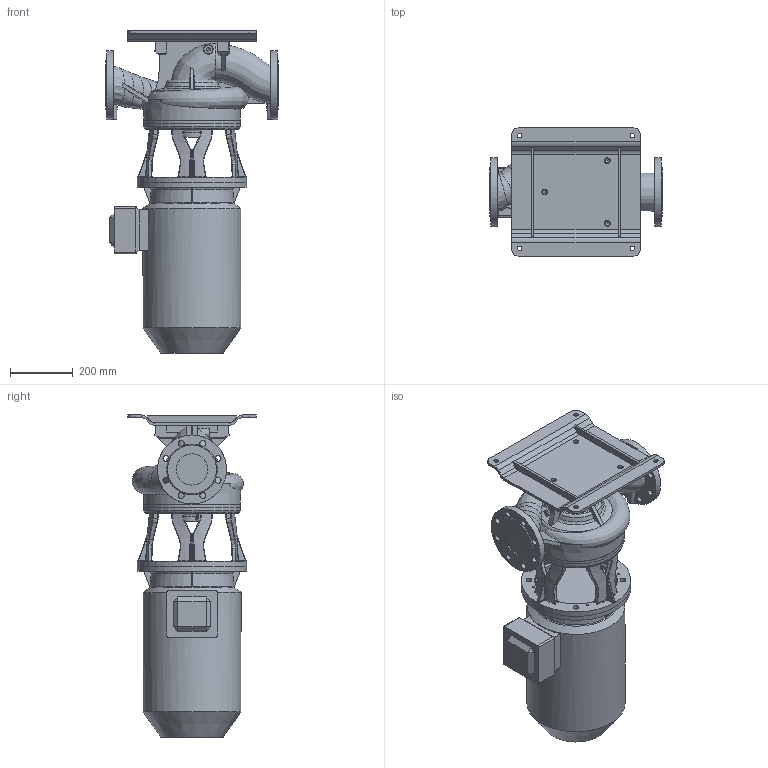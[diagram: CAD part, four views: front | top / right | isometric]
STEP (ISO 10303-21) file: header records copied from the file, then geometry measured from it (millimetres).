
FILE_DESCRIPTION (( 'STEP AP203' ), '1' );
FILE_NAME ('KI100-220_2_18,5kW.STEP', '2024-07-30T07:52:49', ( '' ), ( '' ), 'SwSTEP 2.0', 'SolidWorks 2023', '' );
FILE_SCHEMA (( 'CONFIG_CONTROL_DESIGN' ));
Length unit declared in the file: millimetre
Products named in the file (11): 230572; 440186_solid; 230566; KI100-220_2_18,5kW; 230083; 230574; 230085; 220531; 220532; 230084; 230565
Assembly tree (11 placements, depth 3):
  KI100-220_2_18,5kW
    230566
      230565
    230574
      230572
    220532
      220531
    230085
      230083
      230084  x2
    440186_solid
Bounding box: 550 x 408.67 x 1027.21 mm (x, y, z)
Volume: 63061095.3 mm3; surface area: 2415431.3 mm2
Topology: 7 solids, 7 shells, 1002 faces, 2627 edges, 1625 vertices
Faces by surface type: bspline 381, plane 303, cylinder 187, cone 78, torus 51, sphere 2
Full cylindrical faces by diameter (mm): 6 x2, 6.8 x8, 10 x4, 10.2 x8, 11.445 x1, 11.8 x3, 14 x19, 14.5 x4, 18 x3, 19 x24, 100 x2, 220 x2, 225 x1, 243 x1, 250 x1, 255 x2, 308 x2, 313 x1, 350 x2
Entity records: 74404 total; most frequent: CARTESIAN_POINT 52902, ORIENTED_EDGE 4740, DIRECTION 3197, EDGE_CURVE 2370, VERTEX_POINT 1539, AXIS2_PLACEMENT_3D 1287, EDGE_LOOP 1275, FACE_OUTER_BOUND 1091
